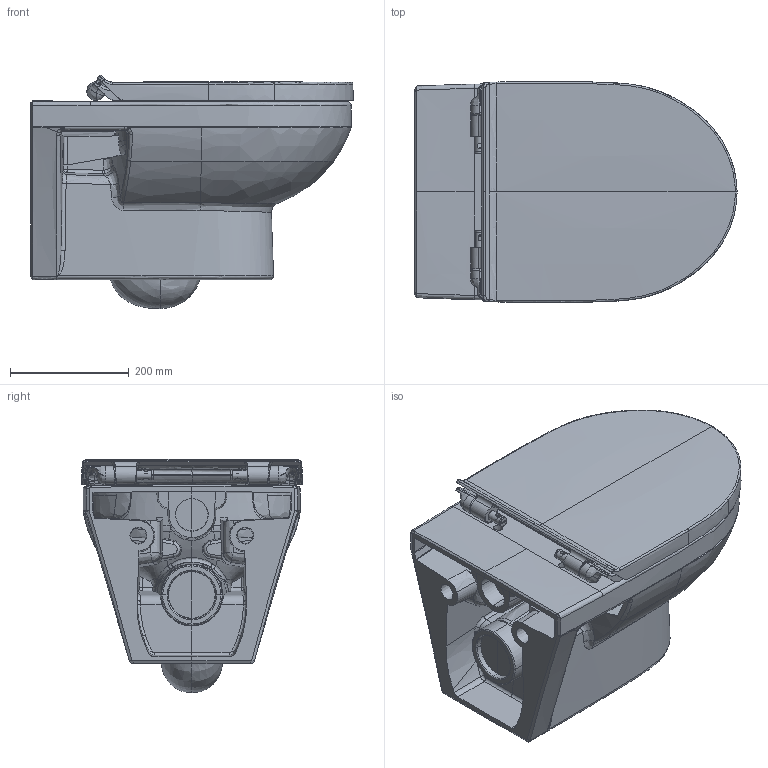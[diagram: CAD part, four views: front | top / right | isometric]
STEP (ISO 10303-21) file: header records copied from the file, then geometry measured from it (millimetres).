
FILE_DESCRIPTION((''),'2;1');
FILE_NAME('C:\Users\Administrator\Desktop\NEWS 2015 Step2 Nachtrag2\DuraStyle\3d\stp\256209.stp','2016-01-05T12:09:47',('Administrator'),(''),'Autodesk Inventor 2011','Autodesk Inventor 2011','');
FILE_SCHEMA(('CONFIG_CONTROL_DESIGN'));
Length unit declared in the file: millimetre
Products named in the file (12): 256209; 002079; 150430_COVER; 150512_SEAT; Coupling element; Dumper; Duraplus cover buffer; free moving element; Metal head; New connection item; Seat buffer
Assembly tree (18 placements, depth 3):
  256209
    256209
    002079
      150430_COVER
      150512_SEAT
      Coupling element
      Dumper  x2
      Duraplus cover buffer  x2
      free moving element
      Metal head  x2
      New connection item  x2
      Seat buffer  x4
Bounding box: 543.06 x 372.37 x 393.16 mm (x, y, z)
Volume: 14864941.7 mm3; surface area: 1945513.6 mm2
Topology: 17 solids, 17 shells, 1627 faces, 5065 edges, 3458 vertices
Faces by surface type: bspline 1085, plane 329, cylinder 147, cone 30, torus 26, sphere 10
Full cylindrical faces by diameter (mm): 3 x2, 4.3 x2, 6 x2, 10 x4, 12 x4, 15 x1, 15.8 x2, 16 x6, 16.1 x2, 17.51 x2, 18.4 x2, 20 x2
Entity records: 366855 total; most frequent: CARTESIAN_POINT 332552, ORIENTED_EDGE 9130, EDGE_CURVE 4565, DIRECTION 3527, VERTEX_POINT 3167, B_SPLINE_CURVE_WITH_KNOTS 2842, EDGE_LOOP 1532, FACE_OUTER_BOUND 1457
